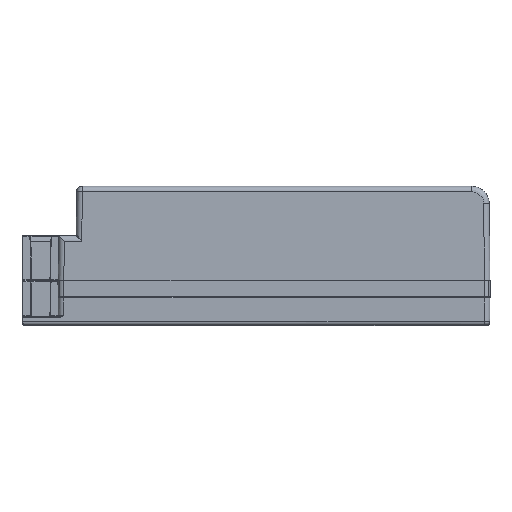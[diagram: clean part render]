
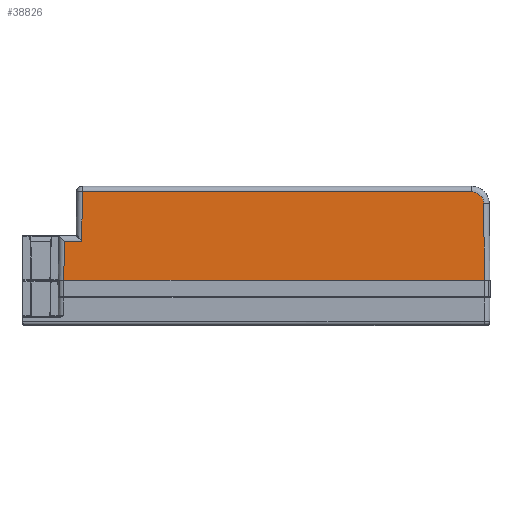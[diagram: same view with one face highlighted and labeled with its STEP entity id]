
A CAD part, top view. The second image highlights one B-rep face of the part: STEP entity #38826.
In plain terms, the highlighted planar face has unit normal (0, 0.009, 1).
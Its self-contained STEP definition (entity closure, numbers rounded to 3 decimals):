
#2472 = FACE_OUTER_BOUND ( 'NONE', #4574, .T. ) ;
#2764 = VERTEX_POINT ( 'NONE', #25075 ) ;
#3148 = EDGE_CURVE ( 'NONE', #41033, #21650, #28400, .T. ) ;
#3250 = DIRECTION ( 'NONE',  ( -1., 0., 0. ) ) ;
#3927 = VECTOR ( 'NONE', #11426, 1000. ) ;
#4130 = CARTESIAN_POINT ( 'NONE',  ( 64.696, 30.071, 38.143 ) ) ;
#4574 = EDGE_LOOP ( 'NONE', ( #16377, #7864, #43184, #41141, #5401, #41981, #33220 ) ) ;
#4670 = CARTESIAN_POINT ( 'NONE',  ( -49.588, 7.363, 38.341 ) ) ;
#4814 = CARTESIAN_POINT ( 'NONE',  ( 66.503, 6.35, 38.35 ) ) ;
#5401 = ORIENTED_EDGE ( 'NONE', *, *, #20419, .T. ) ;
#5437 = EDGE_CURVE ( 'NONE', #24624, #27672, #19739, .T. ) ;
#7517 = CARTESIAN_POINT ( 'NONE',  ( 61.314, 31.464, 38.131 ) ) ;
#7864 = ORIENTED_EDGE ( 'NONE', *, *, #39205, .T. ) ;
#8178 = DIRECTION ( 'NONE',  ( 0., -1., 0.009 ) ) ;
#9215 = LINE ( 'NONE', #40300, #42545 ) ;
#9401 = VERTEX_POINT ( 'NONE', #22859 ) ;
#9648 = DIRECTION ( 'NONE',  ( 1., 0., 0. ) ) ;
#10508 = DIRECTION ( 'NONE',  ( -0.009, 1., -0.009 ) ) ;
#11012 = LINE ( 'NONE', #36113, #18791 ) ;
#11426 = DIRECTION ( 'NONE',  ( -0.009, -1., 0.009 ) ) ;
#12363 = LINE ( 'NONE', #23199, #20171 ) ;
#13182 = AXIS2_PLACEMENT_3D ( 'NONE', #4814, #28124, #8178 ) ;
#15634 = EDGE_CURVE ( 'NONE', #2764, #26232, #12363, .T. ) ;
#15702 = EDGE_CURVE ( 'NONE', #27672, #2764, #39385, .T. ) ;
#16377 = ORIENTED_EDGE ( 'NONE', *, *, #15634, .T. ) ;
#18694 = VECTOR ( 'NONE', #40367, 1000. ) ;
#18791 = VECTOR ( 'NONE', #9648, 1000. ) ;
#19739 = LINE ( 'NONE', #20469, #18694 ) ;
#20171 = VECTOR ( 'NONE', #3250, 1000. ) ;
#20419 = EDGE_CURVE ( 'NONE', #21650, #24624, #28071, .T. ) ;
#20469 = CARTESIAN_POINT ( 'NONE',  ( -50.964, 31.464, 38.131 ) ) ;
#21650 = VERTEX_POINT ( 'NONE', #23850 ) ;
#22859 = CARTESIAN_POINT ( 'NONE',  ( -54.597, 6.35, 38.35 ) ) ;
#23199 = CARTESIAN_POINT ( 'NONE',  ( 66.503, 17.464, 38.253 ) ) ;
#23682 = DIRECTION ( 'NONE',  ( -0.009, -1., 0.009 ) ) ;
#23850 = CARTESIAN_POINT ( 'NONE',  ( 64.713, 28.094, 38.16 ) ) ;
#24095 = CARTESIAN_POINT ( 'NONE',  ( 63.291, 31.464, 38.131 ) ) ;
#24624 = VERTEX_POINT ( 'NONE', #27829 ) ;
#24649 = PLANE ( 'NONE',  #13182 ) ;
#25075 = CARTESIAN_POINT ( 'NONE',  ( -49.5, 17.464, 38.253 ) ) ;
#26232 = VERTEX_POINT ( 'NONE', #36242 ) ;
#27460 = CARTESIAN_POINT ( 'NONE',  ( 64.713, 28.094, 38.16 ) ) ;
#27672 = VERTEX_POINT ( 'NONE', #41986 ) ;
#27829 = CARTESIAN_POINT ( 'NONE',  ( 61.314, 31.464, 38.131 ) ) ;
#28071 =( BOUNDED_CURVE ( )  B_SPLINE_CURVE ( 3, ( #27460, #4130, #24095, #7517 ),
 .UNSPECIFIED., .F., .T. ) 
 B_SPLINE_CURVE_WITH_KNOTS ( ( 4, 4 ),
 ( 4.721, 6.283 ),
 .UNSPECIFIED. ) 
 CURVE ( )  GEOMETRIC_REPRESENTATION_ITEM ( )  RATIONAL_B_SPLINE_CURVE ( ( 1., 0.807, 0.807, 1. ) ) 
 REPRESENTATION_ITEM ( '' )  );
#28124 = DIRECTION ( 'NONE',  ( 0., 0.009, 1. ) ) ;
#28400 = LINE ( 'NONE', #40148, #36213 ) ;
#30522 = EDGE_CURVE ( 'NONE', #9401, #41033, #11012, .T. ) ;
#30945 = CARTESIAN_POINT ( 'NONE',  ( 64.903, 6.35, 38.35 ) ) ;
#33220 = ORIENTED_EDGE ( 'NONE', *, *, #15702, .T. ) ;
#36113 = CARTESIAN_POINT ( 'NONE',  ( 66.503, 6.35, 38.35 ) ) ;
#36213 = VECTOR ( 'NONE', #10508, 1000. ) ;
#36242 = CARTESIAN_POINT ( 'NONE',  ( -54.5, 17.464, 38.253 ) ) ;
#38826 = ADVANCED_FACE ( 'NONE', ( #2472 ), #24649, .T. ) ;
#39205 = EDGE_CURVE ( 'NONE', #26232, #9401, #9215, .T. ) ;
#39385 = LINE ( 'NONE', #4670, #3927 ) ;
#40148 = CARTESIAN_POINT ( 'NONE',  ( 64.903, 6.336, 38.35 ) ) ;
#40300 = CARTESIAN_POINT ( 'NONE',  ( -54.588, 7.407, 38.341 ) ) ;
#40367 = DIRECTION ( 'NONE',  ( -1., 0., 0. ) ) ;
#41033 = VERTEX_POINT ( 'NONE', #30945 ) ;
#41141 = ORIENTED_EDGE ( 'NONE', *, *, #3148, .T. ) ;
#41981 = ORIENTED_EDGE ( 'NONE', *, *, #5437, .T. ) ;
#41986 = CARTESIAN_POINT ( 'NONE',  ( -49.378, 31.464, 38.131 ) ) ;
#42545 = VECTOR ( 'NONE', #23682, 1000. ) ;
#43184 = ORIENTED_EDGE ( 'NONE', *, *, #30522, .T. ) ;
